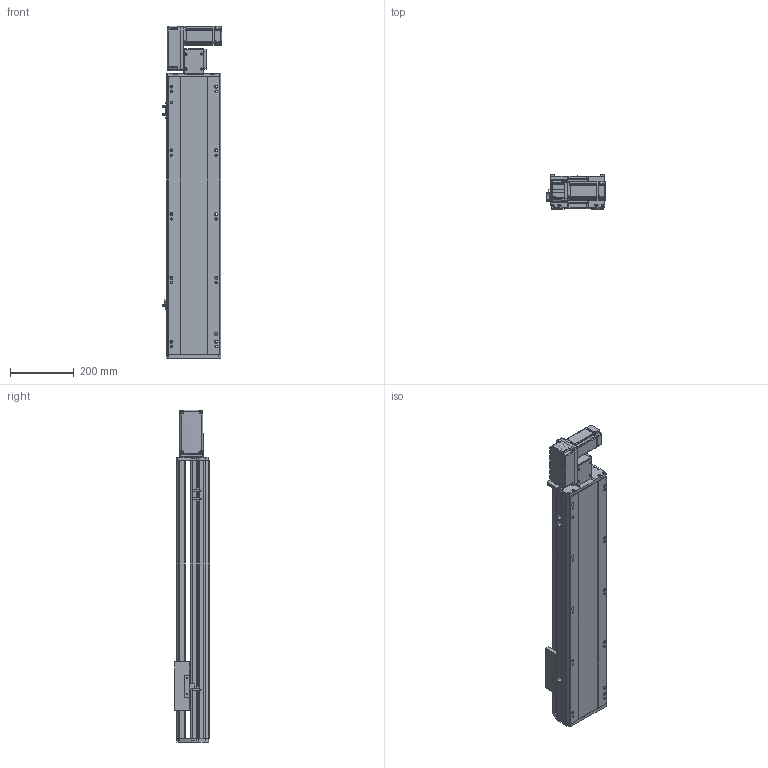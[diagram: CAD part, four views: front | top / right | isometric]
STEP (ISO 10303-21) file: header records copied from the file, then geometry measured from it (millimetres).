
FILE_DESCRIPTION (( 'STEP AP214' ), '1' );
FILE_NAME ('RTB17S-XX-600-L-M40-C4.STEP', '2025-12-11T03:54:41', ( '' ), ( '' ), 'SwSTEP 2.0', 'SolidWorks 2018', '' );
FILE_SCHEMA (( 'AUTOMOTIVE_DESIGN' ));
Length unit declared in the file: millimetre
Products named in the file (14): RTB14-L-017P^RTB17S-L-皮带座装配-400W_RTB17S-XX-XX-L-M40-C4（方程式）; RTB14-L-008-M20--电机板^RTB17S-L-皮带座装配-400W_RTB17S-XX-XX-L-M40-C4（方程式）; RTB17S-L-007上盖^RTB17S-XX-XX-L-M40-C4（方程式）; RTB14-L-018P^RTB17S-L-皮带座装配-400W_RTB17S-XX-XX-L-M40-C4（方程式）; RTB17S-XX-600-L-M40-C4; RMP17S-L-014-T20--皮带座^RTB17S-L-皮带座装配-400W_RTB17S-XX-XX-L-M40-C4（方程式）; RTB17S-L-皮带座装配-400W^RTB17S-XX-XX-L-M40-C4（方程式）; RTB17S-L-004丝杆螺母连接座^RTB17S-XX-XX-L-M40-C4（方程式）; 400W伺服电机^RTB17S-XX-XX-L-M40-C4（方程式）; RTH13-BL-012感应片外置^RTB17S-XX-XX-L-M40-C4（方程式）; RTB14-L-005P--轴承塑胶压盖^RTB17S-L-皮带座装配-400W_RTB17S-XX-XX-L-M40-C4（方程式）; OMRON EE-SX672 传感器^RTB17S-XX-XX-L-M40-C4（方程式）; RTB17-R-011底座^RTB17S-XX-XX-L-M40-C4（方程式）; RTB17S-L-001侧面板^RTB17S-XX-XX-L-M40-C4（方程式）
Assembly tree (16 placements, depth 3):
  RTB17S-XX-600-L-M40-C4
    RTB17-R-011底座^RTB17S-XX-XX-L-M40-C4（方程式）
    RTB17S-L-007上盖^RTB17S-XX-XX-L-M40-C4（方程式）
    OMRON EE-SX672 传感器^RTB17S-XX-XX-L-M40-C4（方程式）  x3
    RTB17S-L-001侧面板^RTB17S-XX-XX-L-M40-C4（方程式）
    400W伺服电机^RTB17S-XX-XX-L-M40-C4（方程式）
    RTB17S-L-004丝杆螺母连接座^RTB17S-XX-XX-L-M40-C4（方程式）
    RTH13-BL-012感应片外置^RTB17S-XX-XX-L-M40-C4（方程式）
    RTB17S-L-皮带座装配-400W^RTB17S-XX-XX-L-M40-C4（方程式）
      RMP17S-L-014-T20--皮带座^RTB17S-L-皮带座装配-400W_RTB17S-XX-XX-L-M40-C4（方程式）
      RTB14-L-005P--轴承塑胶压盖^RTB17S-L-皮带座装配-400W_RTB17S-XX-XX-L-M40-C4（方程式）
      RTB14-L-008-M20--电机板^RTB17S-L-皮带座装配-400W_RTB17S-XX-XX-L-M40-C4（方程式）
      RTB14-L-017P^RTB17S-L-皮带座装配-400W_RTB17S-XX-XX-L-M40-C4（方程式）  x2
      RTB14-L-018P^RTB17S-L-皮带座装配-400W_RTB17S-XX-XX-L-M40-C4（方程式）
Bounding box: 186 x 108 x 1041 mm (x, y, z)
Volume: 9115026 mm3; surface area: 1141449 mm2
Topology: 15 solids, 15 shells, 2173 faces, 5979 edges, 3897 vertices
Faces by surface type: plane 1064, cylinder 661, bspline 301, cone 139, torus 8
Entity records: 61097 total; most frequent: CARTESIAN_POINT 16984, ORIENTED_EDGE 8802, DIRECTION 8216, EDGE_CURVE 4401, VERTEX_POINT 2885, AXIS2_PLACEMENT_3D 2815, VECTOR 2586, LINE 2586
